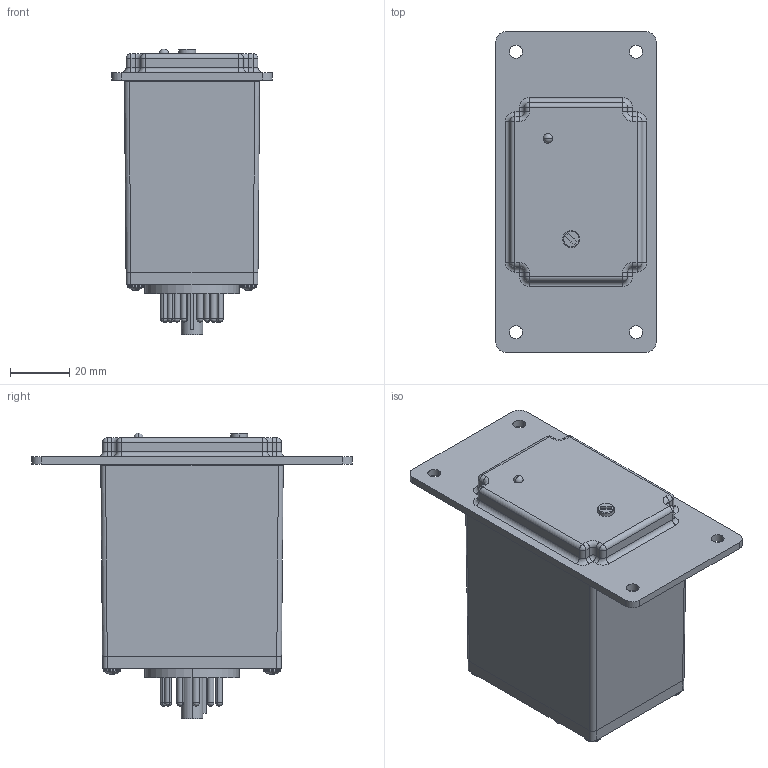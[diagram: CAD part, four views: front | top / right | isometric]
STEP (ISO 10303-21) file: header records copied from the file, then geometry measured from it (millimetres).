
FILE_DESCRIPTION (( 'STEP AP214' ), '1' );
FILE_NAME ('SFF Single.STEP', '2019-07-03T01:49:33', ( '' ), ( '' ), 'SwSTEP 2.0', 'SolidWorks 2019', '' );
FILE_SCHEMA (( 'AUTOMOTIVE_DESIGN' ));
Length unit declared in the file: millimetre
Products named in the file (1): SFF Single
Bounding box: 53.98 x 107.95 x 96.33 mm (x, y, z)
Volume: 222326.8 mm3; surface area: 35735.8 mm2
Topology: 18 solids, 18 shells, 806 faces, 2137 edges, 1365 vertices
Faces by surface type: cylinder 300, plane 243, bspline 137, torus 48, cone 42, sphere 36
Entity records: 43894 total; most frequent: CARTESIAN_POINT 19286, ORIENTED_EDGE 4138, DIRECTION 3070, EDGE_CURVE 2069, VERTEX_POINT 1341, AXIS2_PLACEMENT_3D 1099, LINE 872, VECTOR 872
